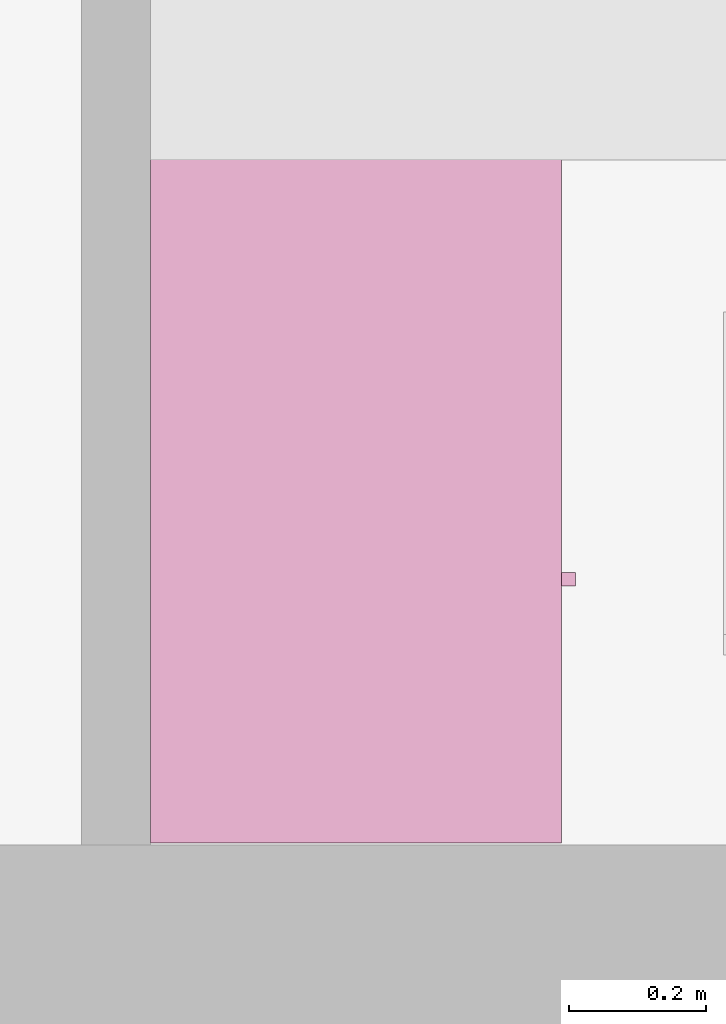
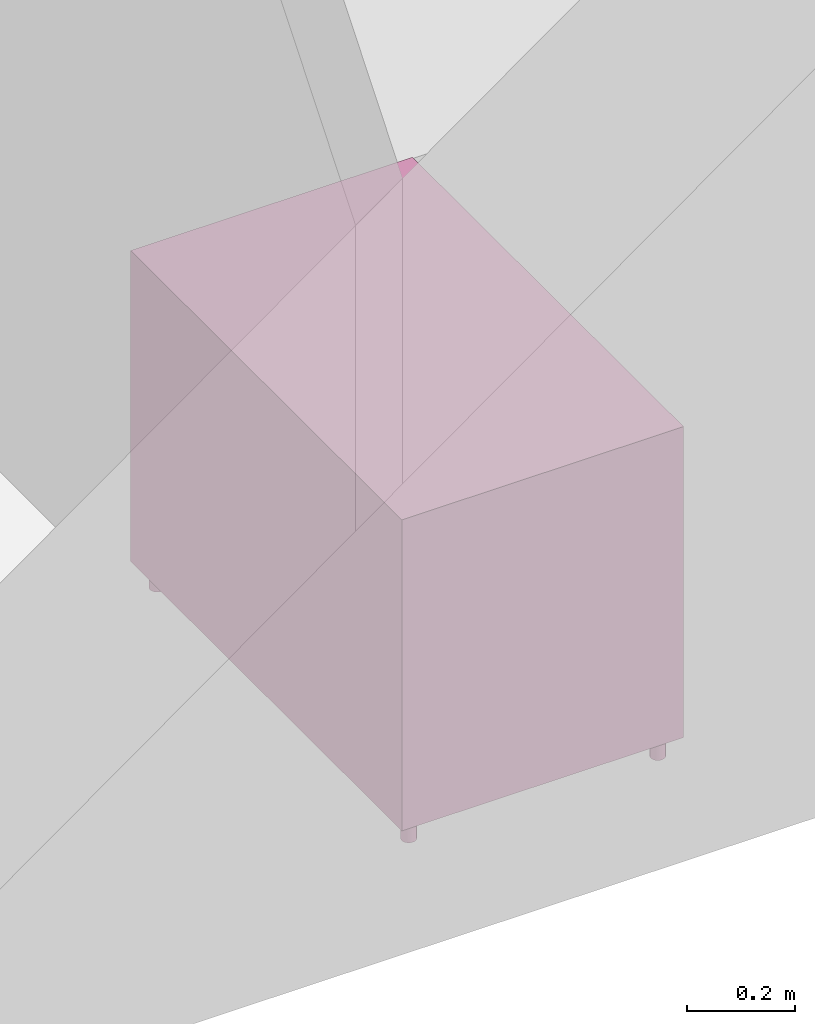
"""IFC4 building model written with IfcOpenShell, lengths in metres."""

from ifc_helpers import new_model, entity, si_unit, converted_unit, derived_unit, frame, origin, place, context, subcontext, project, spatial, faceted_brep, element, save


model = new_model("IFC4")

# Units and contexts
model_context = context("Model", 3, precision=1e-05, world=origin())
body_context = subcontext(model_context, "Body", "Model", "MODEL_VIEW")
ifc_project = project(units=[si_unit("LENGTHUNIT", "METRE"), si_unit("AREAUNIT", "SQUARE_METRE"), si_unit("VOLUMEUNIT", "CUBIC_METRE"), si_unit("MASSUNIT", "GRAM", prefix="KILO"), converted_unit("PLANEANGLEUNIT", "DEGREE", entity("IfcPlaneAngleMeasure", 0.0174532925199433), si_unit("PLANEANGLEUNIT", "RADIAN"), dimensions=[0, 0, 0, 0, 0, 0, 0]), derived_unit("THERMALTRANSMITTANCEUNIT", [(si_unit("POWERUNIT", "WATT"), 1), (si_unit("THERMODYNAMICTEMPERATUREUNIT", "KELVIN"), -1), (si_unit("LENGTHUNIT", "METRE"), -2)]), derived_unit("VOLUMETRICFLOWRATEUNIT", [(si_unit("LENGTHUNIT", "METRE"), 3), (converted_unit("TIMEUNIT", "hour", entity("IfcTimeMeasure", 3600.0), si_unit("TIMEUNIT", "SECOND"), dimensions=[0, 0, 1, 0, 0, 0, 0]), -1), (si_unit("LENGTHUNIT", "METRE"), -1)])], contexts=[model_context])

# Building, storeys
building_placement = place(None, origin())
building = spatial("IfcBuilding", under=ifc_project, at=building_placement, Name="HABITATGE PLURIFAMILIAR", CompositionType="ELEMENT")
storey_1_placement = place(building_placement, frame((0.0, 0.0, 9.26)))
storey_1 = spatial("IfcBuildingStorey", under=building, at=storey_1_placement, Name="PLANTA SEGONA", CompositionType="ELEMENT", Elevation=9.26)
storey_2_placement = place(storey_1_placement, frame((0.0, 0.0, 6.25)))
storey_2 = spatial("IfcBuildingStorey", under=storey_1, at=storey_2_placement, Name="NOU", CompositionType="PARTIAL")

# Furniture
furniture_placement = place(storey_2_placement, frame((408.549312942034, 13.1236662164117, -6.3499999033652)))
element("IfcFurniture", 1, at=furniture_placement, inside=storey_2, Name="Taula 100X60_P2", context=body_context, shape_type="Brep", body=[
    faceted_brep([(0.0, 1.00000000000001, 0.05), (0.6, 1.00000000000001, 0.05), (0.6, 1.00000000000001, 0.07), (0.0, 1.00000000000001, 0.07), (0.6, 0.0, 0.05), (0.6, 0.0, 0.07), (0.0, 0.0, 0.05), (0.0, 0.0, 0.07)], [[[0, 1, 2, 3]], [[1, 4, 5, 2]], [[4, 6, 7, 5]], [[6, 0, 3, 7]], [[0, 6, 4, 1]], [[3, 2, 5, 7]]], orient=[[False], [False], [False], [False], [False], [False]]),
    faceted_brep([(0.58, 1.00000000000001, 0.35), (0.0, 1.00000000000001, 0.35), (0.0, 0.0, 0.35), (0.58, 0.0, 0.35), (0.0, 1.00000000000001, 0.37), (0.58, 1.00000000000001, 0.37), (0.58, 0.0, 0.37), (0.0, 0.0, 0.37)], [[[0, 1, 2, 3]], [[4, 5, 6, 7]], [[1, 0, 5, 4]], [[2, 1, 4, 7]], [[3, 2, 7, 6]], [[0, 3, 6, 5]]], orient=[[False], [False], [False], [False], [False], [False]]),
    faceted_brep([(0.58, 0.490000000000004, 0.75), (0.58, 0.490000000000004, 0.05), (0.6, 0.490000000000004, 0.05), (0.6, 0.490000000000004, 0.75), (0.58, 0.0, 0.05), (0.6, 0.0, 0.05), (0.58, 0.0, 0.75), (0.6, 0.0, 0.75)], [[[0, 1, 2, 3]], [[1, 4, 5, 2]], [[4, 6, 7, 5]], [[6, 0, 3, 7]], [[0, 6, 4, 1]], [[3, 2, 5, 7]]], orient=[[False], [False], [False], [False], [False], [False]]),
    faceted_brep([(0.0, 0.980000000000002, 0.75), (0.0, 0.980000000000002, 0.0499999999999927), (0.0, 1.0, 0.0499999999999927), (0.0, 1.0, 0.75), (0.6, 0.980000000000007, 0.05), (0.6, 1.00000000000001, 0.05), (0.6, 0.980000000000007, 0.75), (0.6, 1.00000000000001, 0.75)], [[[0, 1, 2, 3]], [[1, 4, 5, 2]], [[4, 6, 7, 5]], [[6, 0, 3, 7]], [[0, 6, 4, 1]], [[3, 2, 5, 7]]], orient=[[False], [False], [False], [False], [False], [False]]),
    faceted_brep([(0.0, 0.470000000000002, 0.75), (0.0, 0.470000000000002, 0.0499999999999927), (0.0, 0.490000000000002, 0.0499999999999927), (0.0, 0.490000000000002, 0.75), (0.6, 0.470000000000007, 0.05), (0.6, 0.490000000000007, 0.05), (0.6, 0.470000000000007, 0.75), (0.6, 0.490000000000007, 0.75)], [[[0, 1, 2, 3]], [[1, 4, 5, 2]], [[4, 6, 7, 5]], [[6, 0, 3, 7]], [[0, 6, 4, 1]], [[3, 2, 5, 7]]], orient=[[False], [False], [False], [False], [False], [False]]),
    faceted_brep([(0.0, 0.469999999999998, 0.750000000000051), (0.0, 0.469999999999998, 0.0499999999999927), (0.0, 0.490000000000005, 0.0499999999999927), (0.0, 0.490000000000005, 0.750000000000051), (0.579999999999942, 0.469999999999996, 0.0499999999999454), (0.579999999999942, 0.490000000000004, 0.0499999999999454), (0.58, 0.469999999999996, 0.750000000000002), (0.58, 0.490000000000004, 0.750000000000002)], [[[0, 1, 2, 3]], [[1, 4, 5, 2]], [[4, 6, 7, 5]], [[6, 0, 3, 7]], [[0, 6, 4, 1]], [[3, 2, 5, 7]]], orient=[[False], [False], [False], [False], [False], [False]]),
    faceted_brep([(0.0, 0.0, 0.75), (0.0, 0.0, 0.0499999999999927), (0.0, 0.0200000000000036, 0.0499999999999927), (0.0, 0.0200000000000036, 0.75), (0.6, 0.0, 0.05), (0.6, 0.0200000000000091, 0.05), (0.6, 0.0, 0.75), (0.6, 0.0200000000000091, 0.75)], [[[0, 1, 2, 3]], [[1, 4, 5, 2]], [[4, 6, 7, 5]], [[6, 0, 3, 7]], [[0, 6, 4, 1]], [[3, 2, 5, 7]]], orient=[[False], [False], [False], [False], [False], [False]]),
    faceted_brep([(0.0, 1.00000000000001, 0.73), (0.6, 1.00000000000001, 0.73), (0.6, 1.00000000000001, 0.75), (0.0, 1.00000000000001, 0.75), (0.6, 0.0, 0.73), (0.6, 0.0, 0.75), (0.0, 0.0, 0.73), (0.0, 0.0, 0.75)], [[[0, 1, 2, 3]], [[1, 4, 5, 2]], [[4, 6, 7, 5]], [[6, 0, 3, 7]], [[0, 6, 4, 1]], [[3, 2, 5, 7]]], orient=[[False], [False], [False], [False], [False], [False]]),
    faceted_brep([(0.0, 0.980000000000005, 0.75), (0.0, 0.980000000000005, 0.05), (0.02, 0.980000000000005, 0.05), (0.02, 0.980000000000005, 0.75), (0.0, 0.0, 0.05), (0.02, 0.0, 0.05), (0.0, 0.0, 0.75), (0.02, 0.0, 0.75)], [[[0, 1, 2, 3]], [[1, 4, 5, 2]], [[4, 6, 7, 5]], [[6, 0, 3, 7]], [[0, 6, 4, 1]], [[3, 2, 5, 7]]], orient=[[False], [False], [False], [False], [False], [False]]),
    faceted_brep([(0.6, 0.374420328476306, 0.35), (0.62, 0.374420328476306, 0.35), (0.62, 0.394420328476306, 0.35), (0.6, 0.394420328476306, 0.35), (0.6, 0.394420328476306, 0.45), (0.62, 0.394420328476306, 0.45), (0.62, 0.374420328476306, 0.45), (0.6, 0.374420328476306, 0.45)], [[[0, 1, 2, 3]], [[4, 5, 6, 7]], [[3, 4, 7, 0]], [[2, 5, 4, 3]], [[1, 6, 5, 2]], [[0, 7, 6, 1]]], orient=[[False], [False], [False], [False], [False], [False]]),
    faceted_brep([(0.0361788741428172, 0.950063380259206, 0.0), (0.038772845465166, 0.950290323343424, 0.0), (0.0412880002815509, 0.950964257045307, 0.0), (0.0436479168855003, 0.952064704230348, 0.0), (0.0457808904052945, 0.953558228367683, 0.0), (0.0476221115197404, 0.95539944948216, 0.0), (0.0491156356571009, 0.957532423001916, 0.0), (0.0502160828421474, 0.959892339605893, 0.0), (0.0508900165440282, 0.962407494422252, 0.0), (0.0511169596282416, 0.965001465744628, 0.0), (0.0508900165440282, 0.967595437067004, 0.0), (0.0502160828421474, 0.970110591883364, 0.0), (0.0491156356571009, 0.97247050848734, 0.0), (0.0476221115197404, 0.974603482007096, 0.0), (0.0457808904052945, 0.976444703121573, 0.0), (0.0436479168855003, 0.977938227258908, 0.0), (0.0412880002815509, 0.979038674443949, 0.0), (0.038772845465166, 0.979712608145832, 0.0), (0.0361788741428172, 0.979939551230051, 0.0), (0.0335849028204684, 0.979712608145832, 0.0), (0.0310697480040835, 0.979038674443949, 0.0), (0.0287098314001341, 0.977938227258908, 0.0), (0.02657685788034, 0.976444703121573, 0.0), (0.024735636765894, 0.974603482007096, 0.0), (0.0232421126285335, 0.97247050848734, 0.0), (0.022141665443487, 0.970110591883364, 0.0), (0.0214677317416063, 0.967595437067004, 0.0), (0.0212407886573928, 0.965001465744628, 0.0), (0.0214677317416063, 0.962407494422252, 0.0), (0.022141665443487, 0.959892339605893, 0.0), (0.0232421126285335, 0.957532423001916, 0.0), (0.024735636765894, 0.95539944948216, 0.0), (0.02657685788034, 0.953558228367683, 0.0), (0.0287098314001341, 0.952064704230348, 0.0), (0.0310697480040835, 0.950964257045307, 0.0), (0.0335849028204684, 0.950290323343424, 0.0), (0.0361788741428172, 0.950063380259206, 0.05), (0.0335849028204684, 0.950290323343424, 0.05), (0.0310697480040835, 0.950964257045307, 0.05), (0.0287098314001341, 0.952064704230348, 0.05), (0.02657685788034, 0.953558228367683, 0.05), (0.024735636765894, 0.95539944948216, 0.05), (0.0232421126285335, 0.957532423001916, 0.05), (0.022141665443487, 0.959892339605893, 0.05), (0.0214677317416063, 0.962407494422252, 0.05), (0.0212407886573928, 0.965001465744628, 0.05), (0.0214677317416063, 0.967595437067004, 0.05), (0.022141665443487, 0.970110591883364, 0.05), (0.0232421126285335, 0.97247050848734, 0.05), (0.024735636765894, 0.974603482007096, 0.05), (0.02657685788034, 0.976444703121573, 0.05), (0.0287098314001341, 0.977938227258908, 0.05), (0.0310697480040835, 0.979038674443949, 0.05), (0.0335849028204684, 0.979712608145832, 0.05), (0.0361788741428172, 0.979939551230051, 0.05), (0.038772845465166, 0.979712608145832, 0.05), (0.0412880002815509, 0.979038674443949, 0.05), (0.0436479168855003, 0.977938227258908, 0.05), (0.0457808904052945, 0.976444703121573, 0.05), (0.0476221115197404, 0.974603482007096, 0.05), (0.0491156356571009, 0.97247050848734, 0.05), (0.0502160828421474, 0.970110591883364, 0.05), (0.0508900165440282, 0.967595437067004, 0.05), (0.0511169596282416, 0.965001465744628, 0.05), (0.0508900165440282, 0.962407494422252, 0.05), (0.0502160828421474, 0.959892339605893, 0.05), (0.0491156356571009, 0.957532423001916, 0.05), (0.0476221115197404, 0.95539944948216, 0.05), (0.0457808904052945, 0.953558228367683, 0.05), (0.0436479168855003, 0.952064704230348, 0.05), (0.0412880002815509, 0.950964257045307, 0.05), (0.038772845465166, 0.950290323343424, 0.05)], [[[0, 1, 2, 3, 4, 5, 6, 7, 8, 9, 10, 11, 12, 13, 14, 15, 16, 17, 18, 19, 20, 21, 22, 23, 24, 25, 26, 27, 28, 29, 30, 31, 32, 33, 34, 35]], [[36, 37, 38, 39, 40, 41, 42, 43, 44, 45, 46, 47, 48, 49, 50, 51, 52, 53, 54, 55, 56, 57, 58, 59, 60, 61, 62, 63, 64, 65, 66, 67, 68, 69, 70, 71]], [[1, 0, 36, 71]], [[2, 1, 71, 70]], [[3, 2, 70, 69]], [[4, 3, 69, 68]], [[5, 4, 68, 67]], [[6, 5, 67, 66]], [[7, 6, 66, 65]], [[8, 7, 65, 64]], [[9, 8, 64, 63]], [[10, 9, 63, 62]], [[11, 10, 62, 61]], [[12, 11, 61, 60]], [[13, 12, 60, 59]], [[14, 13, 59, 58]], [[15, 14, 58, 57]], [[16, 15, 57, 56]], [[17, 16, 56, 55]], [[18, 17, 55, 54]], [[19, 18, 54, 53]], [[20, 19, 53, 52]], [[21, 20, 52, 51]], [[22, 21, 51, 50]], [[23, 22, 50, 49]], [[24, 23, 49, 48]], [[25, 24, 48, 47]], [[26, 25, 47, 46]], [[27, 26, 46, 45]], [[28, 27, 45, 44]], [[29, 28, 44, 43]], [[30, 29, 43, 42]], [[31, 30, 42, 41]], [[32, 31, 41, 40]], [[33, 32, 40, 39]], [[34, 33, 39, 38]], [[35, 34, 38, 37]], [[0, 35, 37, 36]]], orient=[[False], [False], [False], [False], [False], [False], [False], [False], [False], [False], [False], [False], [False], [False], [False], [False], [False], [False], [False], [False], [False], [False], [False], [False], [False], [False], [False], [False], [False], [False], [False], [False], [False], [False], [False], [False], [False], [False]]),
    faceted_brep([(0.566178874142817, 0.950063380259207, 0.0), (0.568772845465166, 0.950290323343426, 0.0), (0.571288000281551, 0.950964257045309, 0.0), (0.5736479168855, 0.95206470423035, 0.0), (0.575780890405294, 0.953558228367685, 0.0), (0.57762211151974, 0.955399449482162, 0.0), (0.579115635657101, 0.957532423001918, 0.0), (0.580216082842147, 0.959892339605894, 0.0), (0.580890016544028, 0.962407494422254, 0.0), (0.581116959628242, 0.96500146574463, 0.0), (0.580890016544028, 0.967595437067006, 0.0), (0.580216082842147, 0.970110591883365, 0.0), (0.579115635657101, 0.972470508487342, 0.0), (0.57762211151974, 0.974603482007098, 0.0), (0.575780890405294, 0.976444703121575, 0.0), (0.5736479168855, 0.97793822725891, 0.0), (0.571288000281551, 0.979038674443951, 0.0), (0.568772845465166, 0.979712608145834, 0.0), (0.566178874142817, 0.979939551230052, 0.0), (0.563584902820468, 0.979712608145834, 0.0), (0.561069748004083, 0.979038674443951, 0.0), (0.558709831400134, 0.97793822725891, 0.0), (0.55657685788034, 0.976444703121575, 0.0), (0.554735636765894, 0.974603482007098, 0.0), (0.553242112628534, 0.972470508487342, 0.0), (0.552141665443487, 0.970110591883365, 0.0), (0.551467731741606, 0.967595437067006, 0.0), (0.551240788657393, 0.96500146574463, 0.0), (0.551467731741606, 0.962407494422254, 0.0), (0.552141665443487, 0.959892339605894, 0.0), (0.553242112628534, 0.957532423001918, 0.0), (0.554735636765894, 0.955399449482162, 0.0), (0.55657685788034, 0.953558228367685, 0.0), (0.558709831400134, 0.95206470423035, 0.0), (0.561069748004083, 0.950964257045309, 0.0), (0.563584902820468, 0.950290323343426, 0.0), (0.566178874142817, 0.950063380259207, 0.05), (0.563584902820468, 0.950290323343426, 0.05), (0.561069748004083, 0.950964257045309, 0.05), (0.558709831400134, 0.95206470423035, 0.05), (0.55657685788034, 0.953558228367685, 0.05), (0.554735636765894, 0.955399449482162, 0.05), (0.553242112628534, 0.957532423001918, 0.05), (0.552141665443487, 0.959892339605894, 0.05), (0.551467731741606, 0.962407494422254, 0.05), (0.551240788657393, 0.96500146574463, 0.05), (0.551467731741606, 0.967595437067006, 0.05), (0.552141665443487, 0.970110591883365, 0.05), (0.553242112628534, 0.972470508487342, 0.05), (0.554735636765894, 0.974603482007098, 0.05), (0.55657685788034, 0.976444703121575, 0.05), (0.558709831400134, 0.97793822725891, 0.05), (0.561069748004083, 0.979038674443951, 0.05), (0.563584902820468, 0.979712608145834, 0.05), (0.566178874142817, 0.979939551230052, 0.05), (0.568772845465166, 0.979712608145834, 0.05), (0.571288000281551, 0.979038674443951, 0.05), (0.5736479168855, 0.97793822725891, 0.05), (0.575780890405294, 0.976444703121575, 0.05), (0.57762211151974, 0.974603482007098, 0.05), (0.579115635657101, 0.972470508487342, 0.05), (0.580216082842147, 0.970110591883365, 0.05), (0.580890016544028, 0.967595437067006, 0.05), (0.581116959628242, 0.96500146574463, 0.05), (0.580890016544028, 0.962407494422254, 0.05), (0.580216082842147, 0.959892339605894, 0.05), (0.579115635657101, 0.957532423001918, 0.05), (0.57762211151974, 0.955399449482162, 0.05), (0.575780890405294, 0.953558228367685, 0.05), (0.5736479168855, 0.95206470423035, 0.05), (0.571288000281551, 0.950964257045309, 0.05), (0.568772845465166, 0.950290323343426, 0.05)], [[[0, 1, 2, 3, 4, 5, 6, 7, 8, 9, 10, 11, 12, 13, 14, 15, 16, 17, 18, 19, 20, 21, 22, 23, 24, 25, 26, 27, 28, 29, 30, 31, 32, 33, 34, 35]], [[36, 37, 38, 39, 40, 41, 42, 43, 44, 45, 46, 47, 48, 49, 50, 51, 52, 53, 54, 55, 56, 57, 58, 59, 60, 61, 62, 63, 64, 65, 66, 67, 68, 69, 70, 71]], [[1, 0, 36, 71]], [[2, 1, 71, 70]], [[3, 2, 70, 69]], [[4, 3, 69, 68]], [[5, 4, 68, 67]], [[6, 5, 67, 66]], [[7, 6, 66, 65]], [[8, 7, 65, 64]], [[9, 8, 64, 63]], [[10, 9, 63, 62]], [[11, 10, 62, 61]], [[12, 11, 61, 60]], [[13, 12, 60, 59]], [[14, 13, 59, 58]], [[15, 14, 58, 57]], [[16, 15, 57, 56]], [[17, 16, 56, 55]], [[18, 17, 55, 54]], [[19, 18, 54, 53]], [[20, 19, 53, 52]], [[21, 20, 52, 51]], [[22, 21, 51, 50]], [[23, 22, 50, 49]], [[24, 23, 49, 48]], [[25, 24, 48, 47]], [[26, 25, 47, 46]], [[27, 26, 46, 45]], [[28, 27, 45, 44]], [[29, 28, 44, 43]], [[30, 29, 43, 42]], [[31, 30, 42, 41]], [[32, 31, 41, 40]], [[33, 32, 40, 39]], [[34, 33, 39, 38]], [[35, 34, 38, 37]], [[0, 35, 37, 36]]], orient=[[False], [False], [False], [False], [False], [False], [False], [False], [False], [False], [False], [False], [False], [False], [False], [False], [False], [False], [False], [False], [False], [False], [False], [False], [False], [False], [False], [False], [False], [False], [False], [False], [False], [False], [False], [False], [False], [False]]),
    faceted_brep([(0.564999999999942, 0.0200170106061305, 0.0), (0.567593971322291, 0.0202439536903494, 0.0), (0.570109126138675, 0.0209178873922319, 0.0), (0.572469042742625, 0.022018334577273, 0.0), (0.574602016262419, 0.023511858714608, 0.0), (0.576443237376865, 0.0253530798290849, 0.0), (0.577936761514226, 0.0274860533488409, 0.0), (0.579037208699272, 0.0298459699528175, 0.0), (0.579711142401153, 0.032361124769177, 0.0), (0.579938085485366, 0.0349550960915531, 0.0), (0.579711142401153, 0.0375490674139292, 0.0), (0.579037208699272, 0.0400642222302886, 0.0), (0.577936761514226, 0.0424241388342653, 0.0), (0.576443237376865, 0.0445571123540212, 0.0), (0.574602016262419, 0.0463983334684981, 0.0), (0.572469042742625, 0.0478918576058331, 0.0), (0.570109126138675, 0.0489923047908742, 0.0), (0.567593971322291, 0.0496662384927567, 0.0), (0.564999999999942, 0.0498931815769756, 0.0), (0.562406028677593, 0.0496662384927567, 0.0), (0.559890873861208, 0.0489923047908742, 0.0), (0.557530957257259, 0.0478918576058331, 0.0), (0.555397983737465, 0.0463983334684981, 0.0), (0.553556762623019, 0.0445571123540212, 0.0), (0.552063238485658, 0.0424241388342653, 0.0), (0.550962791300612, 0.0400642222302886, 0.0), (0.550288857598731, 0.0375490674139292, 0.0), (0.550061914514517, 0.0349550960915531, 0.0), (0.550288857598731, 0.032361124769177, 0.0), (0.550962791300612, 0.0298459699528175, 0.0), (0.552063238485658, 0.0274860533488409, 0.0), (0.553556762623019, 0.0253530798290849, 0.0), (0.555397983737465, 0.023511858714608, 0.0), (0.557530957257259, 0.022018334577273, 0.0), (0.559890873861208, 0.0209178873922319, 0.0), (0.562406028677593, 0.0202439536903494, 0.0), (0.564999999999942, 0.0200170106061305, 0.05), (0.562406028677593, 0.0202439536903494, 0.05), (0.559890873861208, 0.0209178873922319, 0.05), (0.557530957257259, 0.022018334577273, 0.05), (0.555397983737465, 0.023511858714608, 0.05), (0.553556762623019, 0.0253530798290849, 0.05), (0.552063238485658, 0.0274860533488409, 0.05), (0.550962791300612, 0.0298459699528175, 0.05), (0.550288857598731, 0.032361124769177, 0.05), (0.550061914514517, 0.0349550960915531, 0.05), (0.550288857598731, 0.0375490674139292, 0.05), (0.550962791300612, 0.0400642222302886, 0.05), (0.552063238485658, 0.0424241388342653, 0.05), (0.553556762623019, 0.0445571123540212, 0.05), (0.555397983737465, 0.0463983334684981, 0.05), (0.557530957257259, 0.0478918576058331, 0.05), (0.559890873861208, 0.0489923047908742, 0.05), (0.562406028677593, 0.0496662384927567, 0.05), (0.564999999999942, 0.0498931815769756, 0.05), (0.567593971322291, 0.0496662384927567, 0.05), (0.570109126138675, 0.0489923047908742, 0.05), (0.572469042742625, 0.0478918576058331, 0.05), (0.574602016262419, 0.0463983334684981, 0.05), (0.576443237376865, 0.0445571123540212, 0.05), (0.577936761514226, 0.0424241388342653, 0.05), (0.579037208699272, 0.0400642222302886, 0.05), (0.579711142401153, 0.0375490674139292, 0.05), (0.579938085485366, 0.0349550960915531, 0.05), (0.579711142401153, 0.032361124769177, 0.05), (0.579037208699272, 0.0298459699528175, 0.05), (0.577936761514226, 0.0274860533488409, 0.05), (0.576443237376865, 0.0253530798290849, 0.05), (0.574602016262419, 0.023511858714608, 0.05), (0.572469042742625, 0.022018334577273, 0.05), (0.570109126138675, 0.0209178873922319, 0.05), (0.567593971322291, 0.0202439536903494, 0.05)], [[[0, 1, 2, 3, 4, 5, 6, 7, 8, 9, 10, 11, 12, 13, 14, 15, 16, 17, 18, 19, 20, 21, 22, 23, 24, 25, 26, 27, 28, 29, 30, 31, 32, 33, 34, 35]], [[36, 37, 38, 39, 40, 41, 42, 43, 44, 45, 46, 47, 48, 49, 50, 51, 52, 53, 54, 55, 56, 57, 58, 59, 60, 61, 62, 63, 64, 65, 66, 67, 68, 69, 70, 71]], [[1, 0, 36, 71]], [[2, 1, 71, 70]], [[3, 2, 70, 69]], [[4, 3, 69, 68]], [[5, 4, 68, 67]], [[6, 5, 67, 66]], [[7, 6, 66, 65]], [[8, 7, 65, 64]], [[9, 8, 64, 63]], [[10, 9, 63, 62]], [[11, 10, 62, 61]], [[12, 11, 61, 60]], [[13, 12, 60, 59]], [[14, 13, 59, 58]], [[15, 14, 58, 57]], [[16, 15, 57, 56]], [[17, 16, 56, 55]], [[18, 17, 55, 54]], [[19, 18, 54, 53]], [[20, 19, 53, 52]], [[21, 20, 52, 51]], [[22, 21, 51, 50]], [[23, 22, 50, 49]], [[24, 23, 49, 48]], [[25, 24, 48, 47]], [[26, 25, 47, 46]], [[27, 26, 46, 45]], [[28, 27, 45, 44]], [[29, 28, 44, 43]], [[30, 29, 43, 42]], [[31, 30, 42, 41]], [[32, 31, 41, 40]], [[33, 32, 40, 39]], [[34, 33, 39, 38]], [[35, 34, 38, 37]], [[0, 35, 37, 36]]], orient=[[False], [False], [False], [False], [False], [False], [False], [False], [False], [False], [False], [False], [False], [False], [False], [False], [False], [False], [False], [False], [False], [False], [False], [False], [False], [False], [False], [False], [False], [False], [False], [False], [False], [False], [False], [False], [False], [False]]),
    faceted_brep([(0.0349662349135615, 0.0203520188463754, 0.0), (0.0375602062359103, 0.0205789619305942, 0.0), (0.0400753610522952, 0.0212528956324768, 0.0), (0.0424352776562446, 0.0223533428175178, 0.0), (0.0445682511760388, 0.0238468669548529, 0.0), (0.0464094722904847, 0.0256880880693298, 0.0), (0.0479029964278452, 0.0278210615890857, 0.0), (0.0490034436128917, 0.0301809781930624, 0.0), (0.0496773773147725, 0.0326961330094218, 0.0), (0.0499043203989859, 0.0352901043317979, 0.0), (0.0496773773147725, 0.037884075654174, 0.0), (0.0490034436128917, 0.0403992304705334, 0.0), (0.0479029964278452, 0.0427591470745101, 0.0), (0.0464094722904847, 0.0448921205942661, 0.0), (0.0445682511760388, 0.046733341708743, 0.0), (0.0424352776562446, 0.048226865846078, 0.0), (0.0400753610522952, 0.049327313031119, 0.0), (0.0375602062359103, 0.0500012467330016, 0.0), (0.0349662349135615, 0.0502281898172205, 0.0), (0.0323722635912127, 0.0500012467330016, 0.0), (0.0298571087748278, 0.049327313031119, 0.0), (0.0274971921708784, 0.048226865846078, 0.0), (0.0253642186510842, 0.046733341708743, 0.0), (0.0235229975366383, 0.0448921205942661, 0.0), (0.0220294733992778, 0.0427591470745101, 0.0), (0.0209290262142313, 0.0403992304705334, 0.0), (0.0202550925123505, 0.037884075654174, 0.0), (0.0200281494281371, 0.0352901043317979, 0.0), (0.0202550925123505, 0.0326961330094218, 0.0), (0.0209290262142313, 0.0301809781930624, 0.0), (0.0220294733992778, 0.0278210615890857, 0.0), (0.0235229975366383, 0.0256880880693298, 0.0), (0.0253642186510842, 0.0238468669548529, 0.0), (0.0274971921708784, 0.0223533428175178, 0.0), (0.0298571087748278, 0.0212528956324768, 0.0), (0.0323722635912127, 0.0205789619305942, 0.0), (0.0349662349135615, 0.0203520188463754, 0.05), (0.0323722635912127, 0.0205789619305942, 0.05), (0.0298571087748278, 0.0212528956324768, 0.05), (0.0274971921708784, 0.0223533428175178, 0.05), (0.0253642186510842, 0.0238468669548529, 0.05), (0.0235229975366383, 0.0256880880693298, 0.05), (0.0220294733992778, 0.0278210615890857, 0.05), (0.0209290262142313, 0.0301809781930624, 0.05), (0.0202550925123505, 0.0326961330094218, 0.05), (0.0200281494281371, 0.0352901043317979, 0.05), (0.0202550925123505, 0.037884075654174, 0.05), (0.0209290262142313, 0.0403992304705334, 0.05), (0.0220294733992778, 0.0427591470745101, 0.05), (0.0235229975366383, 0.0448921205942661, 0.05), (0.0253642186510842, 0.046733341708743, 0.05), (0.0274971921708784, 0.048226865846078, 0.05), (0.0298571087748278, 0.049327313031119, 0.05), (0.0323722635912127, 0.0500012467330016, 0.05), (0.0349662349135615, 0.0502281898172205, 0.05), (0.0375602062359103, 0.0500012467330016, 0.05), (0.0400753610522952, 0.049327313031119, 0.05), (0.0424352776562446, 0.048226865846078, 0.05), (0.0445682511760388, 0.046733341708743, 0.05), (0.0464094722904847, 0.0448921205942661, 0.05), (0.0479029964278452, 0.0427591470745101, 0.05), (0.0490034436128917, 0.0403992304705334, 0.05), (0.0496773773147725, 0.037884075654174, 0.05), (0.0499043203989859, 0.0352901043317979, 0.05), (0.0496773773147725, 0.0326961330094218, 0.05), (0.0490034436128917, 0.0301809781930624, 0.05), (0.0479029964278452, 0.0278210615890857, 0.05), (0.0464094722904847, 0.0256880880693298, 0.05), (0.0445682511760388, 0.0238468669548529, 0.05), (0.0424352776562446, 0.0223533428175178, 0.05), (0.0400753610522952, 0.0212528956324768, 0.05), (0.0375602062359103, 0.0205789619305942, 0.05)], [[[0, 1, 2, 3, 4, 5, 6, 7, 8, 9, 10, 11, 12, 13, 14, 15, 16, 17, 18, 19, 20, 21, 22, 23, 24, 25, 26, 27, 28, 29, 30, 31, 32, 33, 34, 35]], [[36, 37, 38, 39, 40, 41, 42, 43, 44, 45, 46, 47, 48, 49, 50, 51, 52, 53, 54, 55, 56, 57, 58, 59, 60, 61, 62, 63, 64, 65, 66, 67, 68, 69, 70, 71]], [[1, 0, 36, 71]], [[2, 1, 71, 70]], [[3, 2, 70, 69]], [[4, 3, 69, 68]], [[5, 4, 68, 67]], [[6, 5, 67, 66]], [[7, 6, 66, 65]], [[8, 7, 65, 64]], [[9, 8, 64, 63]], [[10, 9, 63, 62]], [[11, 10, 62, 61]], [[12, 11, 61, 60]], [[13, 12, 60, 59]], [[14, 13, 59, 58]], [[15, 14, 58, 57]], [[16, 15, 57, 56]], [[17, 16, 56, 55]], [[18, 17, 55, 54]], [[19, 18, 54, 53]], [[20, 19, 53, 52]], [[21, 20, 52, 51]], [[22, 21, 51, 50]], [[23, 22, 50, 49]], [[24, 23, 49, 48]], [[25, 24, 48, 47]], [[26, 25, 47, 46]], [[27, 26, 46, 45]], [[28, 27, 45, 44]], [[29, 28, 44, 43]], [[30, 29, 43, 42]], [[31, 30, 42, 41]], [[32, 31, 41, 40]], [[33, 32, 40, 39]], [[34, 33, 39, 38]], [[35, 34, 38, 37]], [[0, 35, 37, 36]]], orient=[[False], [False], [False], [False], [False], [False], [False], [False], [False], [False], [False], [False], [False], [False], [False], [False], [False], [False], [False], [False], [False], [False], [False], [False], [False], [False], [False], [False], [False], [False], [False], [False], [False], [False], [False], [False], [False], [False]]),
])

save(model, "model.ifc")
